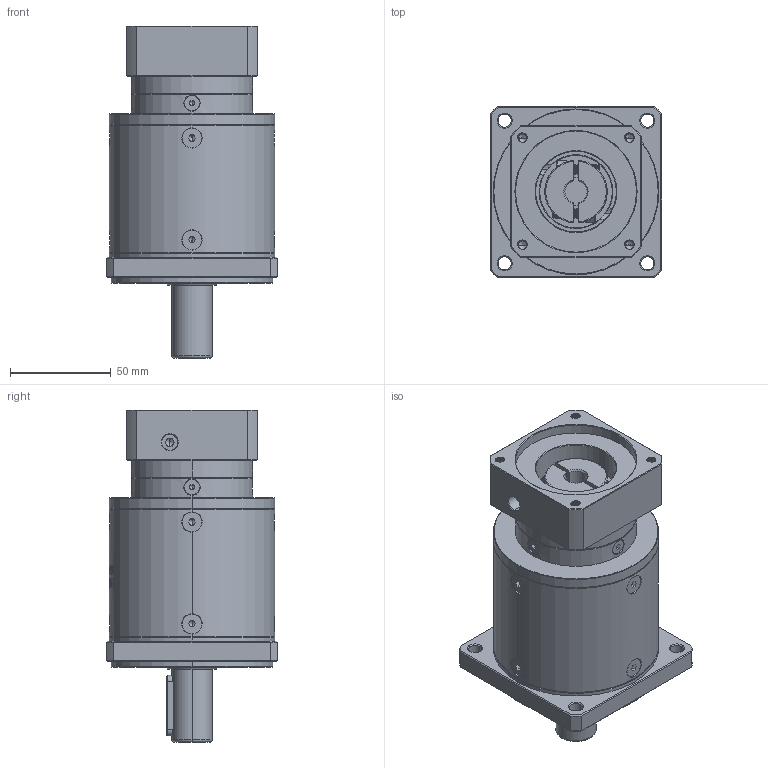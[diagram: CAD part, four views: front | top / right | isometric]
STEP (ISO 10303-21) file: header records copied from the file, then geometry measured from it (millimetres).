
FILE_DESCRIPTION (( 'STEP AP214' ), '1' );
FILE_NAME ('ZF080-D20-L3-P2-11-60-75-M5.step', '2023-08-19T06:54:10', ( '' ), ( '' ), 'SwSTEP 2.0', 'SolidWorks 2016', '' );
FILE_SCHEMA (( 'AUTOMOTIVE_DESIGN' ));
Length unit declared in the file: millimetre
Products named in the file (1): ZF080-D20-L3-P2-11-60-75-M5
Bounding box: 85 x 85 x 164.5 mm (x, y, z)
Volume: 585501.2 mm3; surface area: 75337 mm2
Topology: 18 solids, 18 shells, 2298 faces, 6052 edges, 3856 vertices
Faces by surface type: plane 1128, cylinder 407, bspline 394, cone 327, torus 42
Entity records: 122145 total; most frequent: CARTESIAN_POINT 45032, ORIENTED_EDGE 12028, DIRECTION 9049, EDGE_CURVE 6014, VERTEX_POINT 3856, LINE 3197, VECTOR 3197, AXIS2_PLACEMENT_3D 2926
